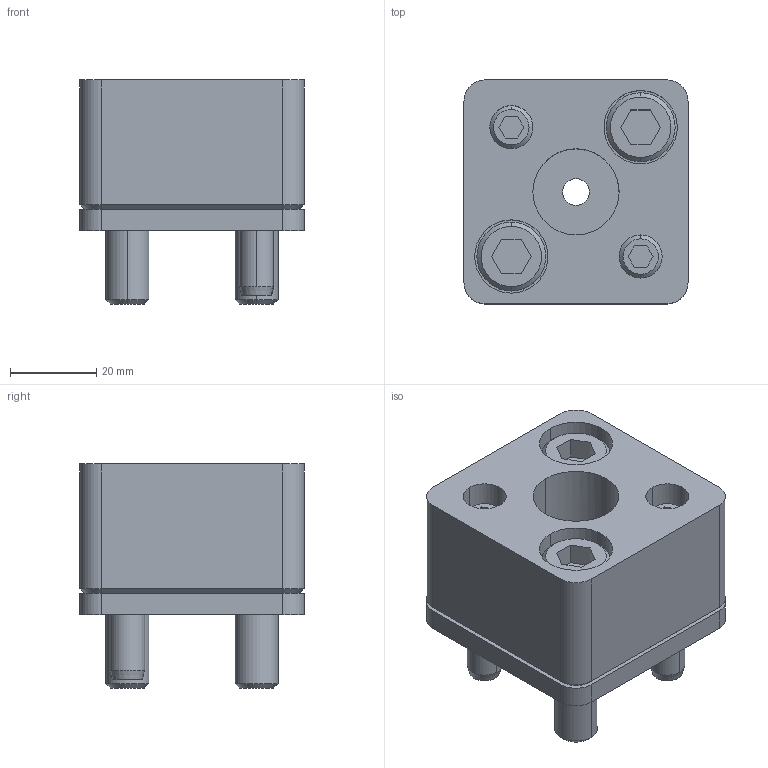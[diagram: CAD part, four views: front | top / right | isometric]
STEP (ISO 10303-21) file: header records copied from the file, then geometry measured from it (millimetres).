
FILE_DESCRIPTION(/* description */ (''),/* implementation_level */ '2;1');
FILE_NAME(/* name */ '3d_hsr-fp20_04202_r00.stp',/* time_stamp */ '2011-01-10T14:14:34+09:00',/* author */ ('MISUMI'),/* organization */ (''),/* preprocessor_version */ 'ST-DEVELOPER v11',/* originating_system */ 'UGS - NX 5.0',/* authorisation */ '');
FILE_SCHEMA (('CONFIG_CONTROL_DESIGN'));
Length unit declared in the file: millimetre
Products named in the file (1): 3d_hsr-fp20_04202_r00
Bounding box: 52 x 52 x 52 mm (x, y, z)
Volume: 82419.6 mm3; surface area: 30021.6 mm2
Topology: 8 solids, 8 shells, 167 faces, 380 edges, 243 vertices
Faces by surface type: plane 72, cylinder 65, cone 30
Entity records: 4854 total; most frequent: DIRECTION 866, CARTESIAN_POINT 848, ORIENTED_EDGE 760, EDGE_CURVE 380, AXIS2_PLACEMENT_3D 329, VERTEX_POINT 243, LINE 208, VECTOR 208
